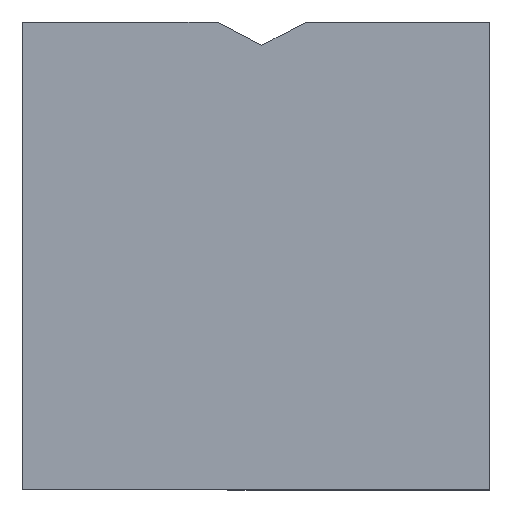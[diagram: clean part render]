
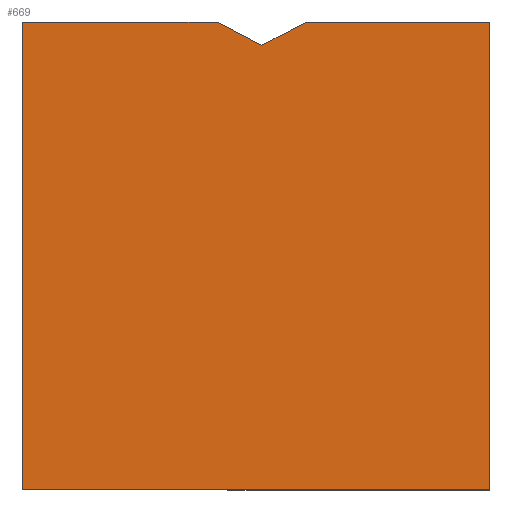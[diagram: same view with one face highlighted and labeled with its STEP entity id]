
A CAD part, top view. The second image highlights one B-rep face of the part: STEP entity #669.
In plain terms, the highlighted planar face has unit normal (0, 0, 1).
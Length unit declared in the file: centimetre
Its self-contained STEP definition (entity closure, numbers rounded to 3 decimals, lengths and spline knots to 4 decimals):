
#3 = VECTOR ( 'NONE', #86, 100. ) ;
#4 = VERTEX_POINT ( 'NONE', #184 ) ;
#15 = EDGE_CURVE ( 'NONE', #485, #61, #82, .T. ) ;
#26 = CARTESIAN_POINT ( 'NONE',  ( 1000., 0., 1000. ) ) ;
#55 = EDGE_CURVE ( 'NONE', #4, #64, #286, .T. ) ;
#59 = VERTEX_POINT ( 'NONE', #239 ) ;
#61 = VERTEX_POINT ( 'NONE', #654 ) ;
#62 = CARTESIAN_POINT ( 'NONE',  ( 0., 1000., 1000. ) ) ;
#64 = VERTEX_POINT ( 'NONE', #340 ) ;
#73 = CARTESIAN_POINT ( 'NONE',  ( 1000., 1000., 1000. ) ) ;
#77 = VERTEX_POINT ( 'NONE', #26 ) ;
#82 = LINE ( 'NONE', #296, #168 ) ;
#86 = DIRECTION ( 'NONE',  ( 0., 1., 0. ) ) ;
#120 = ORIENTED_EDGE ( 'NONE', *, *, #259, .T. ) ;
#168 = VECTOR ( 'NONE', #595, 100. ) ;
#172 = DIRECTION ( 'NONE',  ( 1., 0., 0. ) ) ;
#181 = DIRECTION ( 'NONE',  ( -1., 0., 0. ) ) ;
#184 = CARTESIAN_POINT ( 'NONE',  ( 416.7371, 1000., 1000. ) ) ;
#188 = EDGE_LOOP ( 'NONE', ( #316, #638, #665, #120, #525, #676, #464 ) ) ;
#194 = DIRECTION ( 'NONE',  ( -1., 0., 0. ) ) ;
#202 = LINE ( 'NONE', #493, #642 ) ;
#226 = LINE ( 'NONE', #230, #439 ) ;
#230 = CARTESIAN_POINT ( 'NONE',  ( 0., 0., 1000. ) ) ;
#239 = CARTESIAN_POINT ( 'NONE',  ( 0., 0., 1000. ) ) ;
#241 = DIRECTION ( 'NONE',  ( 0.886, -0.463, 0. ) ) ;
#259 = EDGE_CURVE ( 'NONE', #64, #59, #532, .T. ) ;
#265 = AXIS2_PLACEMENT_3D ( 'NONE', #494, #353, #658 ) ;
#273 = VERTEX_POINT ( 'NONE', #279 ) ;
#278 = EDGE_CURVE ( 'NONE', #59, #77, #226, .T. ) ;
#279 = CARTESIAN_POINT ( 'NONE',  ( 1000., 1000., 1000. ) ) ;
#286 = LINE ( 'NONE', #646, #626 ) ;
#289 = CARTESIAN_POINT ( 'NONE',  ( 416.7371, 1000., 1000. ) ) ;
#296 = CARTESIAN_POINT ( 'NONE',  ( 512.3912, 950., 1000. ) ) ;
#316 = ORIENTED_EDGE ( 'NONE', *, *, #15, .F. ) ;
#331 = CARTESIAN_POINT ( 'NONE',  ( 512.3912, 950., 1000. ) ) ;
#340 = CARTESIAN_POINT ( 'NONE',  ( 0., 1000., 1000. ) ) ;
#353 = DIRECTION ( 'NONE',  ( 0., 0., 1. ) ) ;
#370 = EDGE_CURVE ( 'NONE', #273, #61, #202, .T. ) ;
#374 = DIRECTION ( 'NONE',  ( 0., -1., 0. ) ) ;
#439 = VECTOR ( 'NONE', #172, 100. ) ;
#444 = LINE ( 'NONE', #289, #644 ) ;
#447 = FACE_OUTER_BOUND ( 'NONE', #188, .T. ) ;
#464 = ORIENTED_EDGE ( 'NONE', *, *, #370, .T. ) ;
#485 = VERTEX_POINT ( 'NONE', #331 ) ;
#493 = CARTESIAN_POINT ( 'NONE',  ( 0., 1000., 1000. ) ) ;
#494 = CARTESIAN_POINT ( 'NONE',  ( 0., 0., 1000. ) ) ;
#525 = ORIENTED_EDGE ( 'NONE', *, *, #278, .T. ) ;
#532 = LINE ( 'NONE', #62, #556 ) ;
#545 = EDGE_CURVE ( 'NONE', #77, #273, #652, .T. ) ;
#555 = EDGE_CURVE ( 'NONE', #4, #485, #444, .T. ) ;
#556 = VECTOR ( 'NONE', #374, 100. ) ;
#595 = DIRECTION ( 'NONE',  ( 0.886, 0.463, 0. ) ) ;
#604 = PLANE ( 'NONE',  #265 ) ;
#626 = VECTOR ( 'NONE', #181, 100. ) ;
#638 = ORIENTED_EDGE ( 'NONE', *, *, #555, .F. ) ;
#642 = VECTOR ( 'NONE', #194, 100. ) ;
#644 = VECTOR ( 'NONE', #241, 100. ) ;
#646 = CARTESIAN_POINT ( 'NONE',  ( 0., 1000., 1000. ) ) ;
#652 = LINE ( 'NONE', #73, #3 ) ;
#654 = CARTESIAN_POINT ( 'NONE',  ( 608.0453, 1000., 1000. ) ) ;
#658 = DIRECTION ( 'NONE',  ( 1., 0., 0. ) ) ;
#665 = ORIENTED_EDGE ( 'NONE', *, *, #55, .T. ) ;
#669 = ADVANCED_FACE ( 'NONE', ( #447 ), #604, .T. ) ;
#676 = ORIENTED_EDGE ( 'NONE', *, *, #545, .T. ) ;
